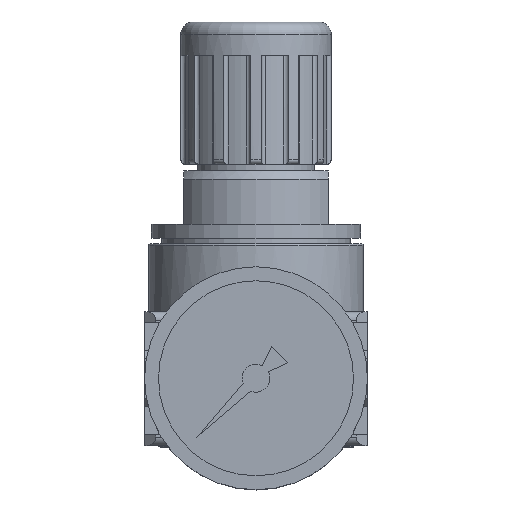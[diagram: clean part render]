
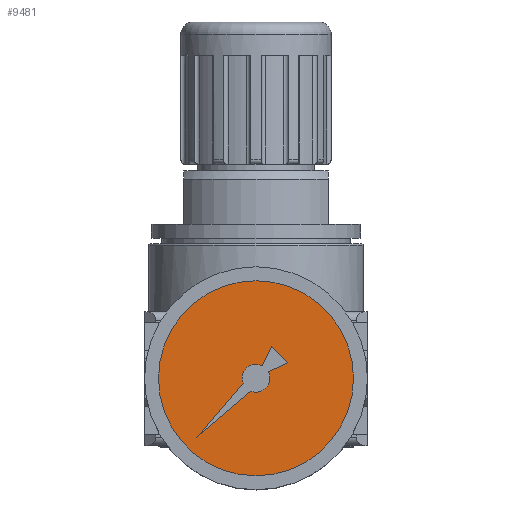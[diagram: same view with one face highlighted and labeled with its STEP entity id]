
A CAD part, top view. The second image highlights one B-rep face of the part: STEP entity #9481.
In plain terms, the highlighted planar face has unit normal (0, 0, 1).
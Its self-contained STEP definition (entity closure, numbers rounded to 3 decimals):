
#8893=CARTESIAN_POINT('',(0.,0.,41.));
#8894=DIRECTION('',(0.,0.,-1.));
#8895=DIRECTION('',(0.,1.,0.));
#8896=AXIS2_PLACEMENT_3D('',#8893,#8894,#8895);
#8898=CARTESIAN_POINT('',(0.,0.,41.));
#8899=DIRECTION('',(0.,0.,-1.));
#8900=DIRECTION('',(0.,-1.,0.));
#8901=AXIS2_PLACEMENT_3D('',#8898,#8899,#8900);
#8903=DIRECTION('',(0.76,0.649,0.));
#8904=VECTOR('',#8903,12.748);
#8905=CARTESIAN_POINT('',(-10.607,-10.607,41.));
#8906=LINE('',#8905,#8904);
#8907=CARTESIAN_POINT('',(0.,0.,41.));
#8908=DIRECTION('',(0.,0.,1.));
#8909=DIRECTION('',(-0.365,-0.931,0.));
#8910=AXIS2_PLACEMENT_3D('',#8907,#8908,#8909);
#8912=CARTESIAN_POINT('',(0.,0.,41.));
#8913=DIRECTION('',(0.,0.,1.));
#8914=DIRECTION('',(1.,0.,0.));
#8915=AXIS2_PLACEMENT_3D('',#8912,#8913,#8914);
#8917=DIRECTION('',(0.906,0.423,0.));
#8918=VECTOR('',#8917,3.847);
#8919=CARTESIAN_POINT('',(2.217,1.156,41.));
#8920=LINE('',#8919,#8918);
#8921=DIRECTION('',(-0.707,0.707,0.));
#8922=VECTOR('',#8921,4.132);
#8923=CARTESIAN_POINT('',(5.703,2.782,41.));
#8924=LINE('',#8923,#8922);
#8925=DIRECTION('',(-0.423,-0.906,0.));
#8926=VECTOR('',#8925,3.847);
#8927=CARTESIAN_POINT('',(2.782,5.703,41.));
#8928=LINE('',#8927,#8926);
#8929=CARTESIAN_POINT('',(0.,0.,41.));
#8930=DIRECTION('',(0.,0.,1.));
#8931=DIRECTION('',(0.462,0.887,0.));
#8932=AXIS2_PLACEMENT_3D('',#8929,#8930,#8931);
#8934=CARTESIAN_POINT('',(0.,0.,41.));
#8935=DIRECTION('',(0.,0.,1.));
#8936=DIRECTION('',(-1.,0.,0.));
#8937=AXIS2_PLACEMENT_3D('',#8934,#8935,#8936);
#8939=DIRECTION('',(-0.649,-0.76,0.));
#8940=VECTOR('',#8939,12.748);
#8941=CARTESIAN_POINT('',(-2.327,-0.913,41.));
#8942=LINE('',#8941,#8940);
#9110=CARTESIAN_POINT('',(0.,17.5,41.));
#9111=VERTEX_POINT('',#9110);
#9112=CARTESIAN_POINT('',(0.,-17.5,41.));
#9113=VERTEX_POINT('',#9112);
#9114=CARTESIAN_POINT('',(-10.607,-10.607,41.));
#9115=CARTESIAN_POINT('',(-0.913,-2.327,41.));
#9116=VERTEX_POINT('',#9114);
#9117=VERTEX_POINT('',#9115);
#9118=CARTESIAN_POINT('',(2.5,0.,41.));
#9119=VERTEX_POINT('',#9118);
#9120=CARTESIAN_POINT('',(2.217,1.156,41.));
#9121=VERTEX_POINT('',#9120);
#9122=CARTESIAN_POINT('',(5.703,2.782,41.));
#9123=VERTEX_POINT('',#9122);
#9124=CARTESIAN_POINT('',(2.782,5.703,41.));
#9125=VERTEX_POINT('',#9124);
#9126=CARTESIAN_POINT('',(1.156,2.217,41.));
#9127=VERTEX_POINT('',#9126);
#9128=CARTESIAN_POINT('',(-2.5,0.,41.));
#9129=VERTEX_POINT('',#9128);
#9130=CARTESIAN_POINT('',(-2.327,-0.913,41.));
#9131=VERTEX_POINT('',#9130);
#9452=CARTESIAN_POINT('',(0.,0.,41.));
#9453=DIRECTION('',(0.,0.,1.));
#9454=DIRECTION('',(0.,1.,0.));
#9455=AXIS2_PLACEMENT_3D('',#9452,#9453,#9454);
#9456=PLANE('',#9455);
#9457=ORIENTED_EDGE('',*,*,#9447,.T.);
#9458=ORIENTED_EDGE('',*,*,#9431,.T.);
#9459=EDGE_LOOP('',(#9457,#9458));
#9460=FACE_OUTER_BOUND('',#9459,.F.);
#9462=ORIENTED_EDGE('',*,*,#9461,.T.);
#9464=ORIENTED_EDGE('',*,*,#9463,.T.);
#9466=ORIENTED_EDGE('',*,*,#9465,.T.);
#9468=ORIENTED_EDGE('',*,*,#9467,.T.);
#9470=ORIENTED_EDGE('',*,*,#9469,.T.);
#9472=ORIENTED_EDGE('',*,*,#9471,.T.);
#9474=ORIENTED_EDGE('',*,*,#9473,.T.);
#9476=ORIENTED_EDGE('',*,*,#9475,.T.);
#9478=ORIENTED_EDGE('',*,*,#9477,.T.);
#9479=EDGE_LOOP('',(#9462,#9464,#9466,#9468,#9470,#9472,#9474,#9476,#9478));
#9480=FACE_BOUND('',#9479,.F.);
#9481=ADVANCED_FACE('',(#9460,#9480),#9456,.T.);
#8897=CIRCLE('',#8896,17.5);
#8902=CIRCLE('',#8901,17.5);
#8911=CIRCLE('',#8910,2.5);
#8916=CIRCLE('',#8915,2.5);
#8933=CIRCLE('',#8932,2.5);
#8938=CIRCLE('',#8937,2.5);
#9431=EDGE_CURVE('',#9113,#9111,#8902,.T.);
#9447=EDGE_CURVE('',#9111,#9113,#8897,.T.);
#9461=EDGE_CURVE('',#9116,#9117,#8906,.T.);
#9463=EDGE_CURVE('',#9117,#9119,#8911,.T.);
#9465=EDGE_CURVE('',#9119,#9121,#8916,.T.);
#9467=EDGE_CURVE('',#9121,#9123,#8920,.T.);
#9469=EDGE_CURVE('',#9123,#9125,#8924,.T.);
#9471=EDGE_CURVE('',#9125,#9127,#8928,.T.);
#9473=EDGE_CURVE('',#9127,#9129,#8933,.T.);
#9475=EDGE_CURVE('',#9129,#9131,#8938,.T.);
#9477=EDGE_CURVE('',#9131,#9116,#8942,.T.);
